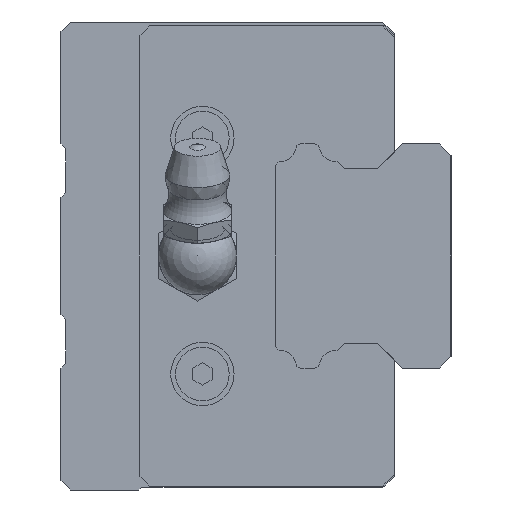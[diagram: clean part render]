
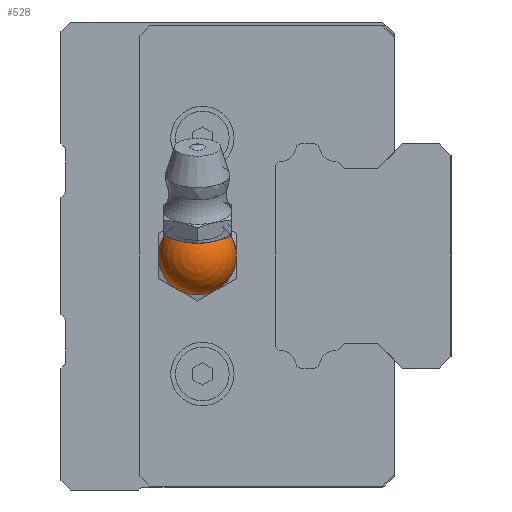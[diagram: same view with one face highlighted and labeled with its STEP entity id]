
A CAD part, left-side view. The second image highlights one B-rep face of the part: STEP entity #528.
In plain terms, the highlighted spherical face has radius 4 mm.
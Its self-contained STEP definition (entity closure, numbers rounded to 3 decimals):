
#528 = ADVANCED_FACE( '', ( #1150, #1151 ), #1152, .T. );
#1150 = FACE_BOUND( '', #1820, .T. );
#1151 = FACE_OUTER_BOUND( '', #1821, .T. );
#1152 = SPHERICAL_SURFACE( '', #1822, 4. );
#1820 = VERTEX_LOOP( '', #3603 );
#1821 = EDGE_LOOP( '', ( #3604, #3605 ) );
#1822 = AXIS2_PLACEMENT_3D( '', #3606, #3607, #3608 );
#3603 = VERTEX_POINT( '', #4387 );
#3604 = ORIENTED_EDGE( '', *, *, #4388, .T. );
#3605 = ORIENTED_EDGE( '', *, *, #4389, .T. );
#3606 = CARTESIAN_POINT( '', ( 7.6, 0., 0. ) );
#3607 = DIRECTION( '', ( 1., 0., 0. ) );
#3608 = DIRECTION( '', ( 0., -1., 0. ) );
#4387 = CARTESIAN_POINT( '', ( 11.6, 0., 0. ) );
#4388 = EDGE_CURVE( '', #5332, #5333, #5334, .F. );
#4389 = EDGE_CURVE( '', #5333, #5332, #5335, .T. );
#5332 = VERTEX_POINT( '', #6664 );
#5333 = VERTEX_POINT( '', #6665 );
#5334 = CIRCLE( '', #6666, 2.731 );
#5335 = CIRCLE( '', #6667, 4. );
#6664 = CARTESIAN_POINT( '', ( 7.6, 3.175, -2.432 ) );
#6665 = CARTESIAN_POINT( '', ( 7.6, 3.175, 2.432 ) );
#6666 = AXIS2_PLACEMENT_3D( '', #7716, #7717, #7718 );
#6667 = AXIS2_PLACEMENT_3D( '', #7719, #7720, #7721 );
#7716 = CARTESIAN_POINT( '', ( 8.742, 2.691, 0. ) );
#7717 = DIRECTION( '', ( 0.391, 0.921, 0. ) );
#7718 = DIRECTION( '', ( -0.921, 0.391, 0. ) );
#7719 = CARTESIAN_POINT( '', ( 7.6, 0., 0. ) );
#7720 = DIRECTION( '', ( 1., 0., 0. ) );
#7721 = DIRECTION( '', ( 0., 0., -1. ) );
